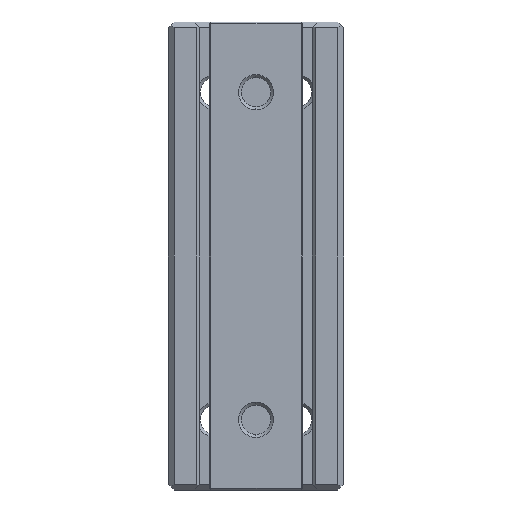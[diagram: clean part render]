
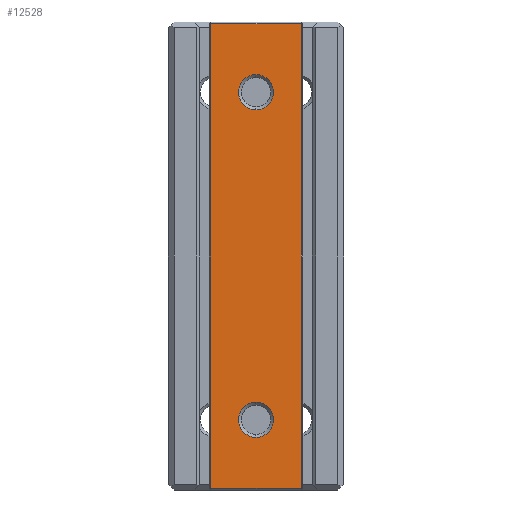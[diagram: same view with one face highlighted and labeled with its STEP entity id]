
A CAD part, front view. The second image highlights one B-rep face of the part: STEP entity #12528.
In plain terms, the highlighted planar face has unit normal (0, -1, 0).
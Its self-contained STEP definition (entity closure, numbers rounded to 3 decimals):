
#467 = EDGE_CURVE ( 'NONE', #4938, #4957, #1821, .T. ) ;
#476 = EDGE_CURVE ( 'NONE', #4956, #4934, #1838, .T. ) ;
#477 = EDGE_CURVE ( 'NONE', #4959, #4961, #11654, .T. ) ;
#479 = EDGE_CURVE ( 'NONE', #4961, #4980, #11653, .T. ) ;
#481 = EDGE_CURVE ( 'NONE', #4977, #4980, #11652, .T. ) ;
#482 = EDGE_CURVE ( 'NONE', #4977, #4959, #11666, .T. ) ;
#483 = EDGE_CURVE ( 'NONE', #4957, #4938, #1847, .T. ) ;
#776 = EDGE_LOOP ( 'NONE', ( #11438, #11437 ) ) ;
#1821 = CIRCLE ( 'NONE', #1831, 1.5 ) ;
#1831 = AXIS2_PLACEMENT_3D ( 'NONE', #11628, #11629, #11630 ) ;
#1838 = CIRCLE ( 'NONE', #1842, 1.5 ) ;
#1840 = VECTOR ( 'NONE', #11659, 1000. ) ;
#1842 = AXIS2_PLACEMENT_3D ( 'NONE', #11655, #11656, #11657 ) ;
#1843 = VECTOR ( 'NONE', #11665, 1000. ) ;
#1844 = VECTOR ( 'NONE', #11667, 1000. ) ;
#1845 = VECTOR ( 'NONE', #11662, 1000. ) ;
#1847 = CIRCLE ( 'NONE', #1848, 1.5 ) ;
#1848 = AXIS2_PLACEMENT_3D ( 'NONE', #11670, #11671, #11672 ) ;
#3731 = CARTESIAN_POINT ( 'NONE',  ( 0., -0.5, -15.5 ) ) ;
#3735 = CARTESIAN_POINT ( 'NONE',  ( 0., -0.5, 12.5 ) ) ;
#3753 = CARTESIAN_POINT ( 'NONE',  ( 0., -0.5, -12.5 ) ) ;
#3754 = CARTESIAN_POINT ( 'NONE',  ( 0., -0.5, 15.5 ) ) ;
#3756 = CARTESIAN_POINT ( 'NONE',  ( -3.85, -0.5, 19.85 ) ) ;
#3758 = CARTESIAN_POINT ( 'NONE',  ( -3.85, -0.5, -19.85 ) ) ;
#3774 = CARTESIAN_POINT ( 'NONE',  ( 3.85, -0.5, 19.85 ) ) ;
#3777 = CARTESIAN_POINT ( 'NONE',  ( 3.85, -0.5, -19.85 ) ) ;
#4934 = VERTEX_POINT ( 'NONE', #3731 ) ;
#4938 = VERTEX_POINT ( 'NONE', #3735 ) ;
#4956 = VERTEX_POINT ( 'NONE', #3753 ) ;
#4957 = VERTEX_POINT ( 'NONE', #3754 ) ;
#4959 = VERTEX_POINT ( 'NONE', #3756 ) ;
#4961 = VERTEX_POINT ( 'NONE', #3758 ) ;
#4977 = VERTEX_POINT ( 'NONE', #3774 ) ;
#4980 = VERTEX_POINT ( 'NONE', #3777 ) ;
#5706 = EDGE_CURVE ( 'NONE', #4934, #4956, #7361, .T. ) ;
#7361 = CIRCLE ( 'NONE', #7364, 1.5 ) ;
#7364 = AXIS2_PLACEMENT_3D ( 'NONE', #8394, #8395, #8396 ) ;
#8394 = CARTESIAN_POINT ( 'NONE',  ( 0., -0.5, -14. ) ) ;
#8395 = DIRECTION ( 'NONE',  ( 0., 1., 0. ) ) ;
#8396 = DIRECTION ( 'NONE',  ( 0., 0., 1. ) ) ;
#9909 = FACE_BOUND ( 'NONE', #12332, .T. ) ;
#10216 = AXIS2_PLACEMENT_3D ( 'NONE', #11802, #11804, #11806 ) ;
#11353 = PLANE ( 'NONE',  #10216 ) ;
#11437 = ORIENTED_EDGE ( 'NONE', *, *, #483, .T. ) ;
#11438 = ORIENTED_EDGE ( 'NONE', *, *, #467, .T. ) ;
#11467 = ORIENTED_EDGE ( 'NONE', *, *, #5706, .T. ) ;
#11485 = ORIENTED_EDGE ( 'NONE', *, *, #477, .T. ) ;
#11490 = ORIENTED_EDGE ( 'NONE', *, *, #476, .T. ) ;
#11529 = ORIENTED_EDGE ( 'NONE', *, *, #481, .F. ) ;
#11553 = ORIENTED_EDGE ( 'NONE', *, *, #482, .T. ) ;
#11573 = ORIENTED_EDGE ( 'NONE', *, *, #479, .T. ) ;
#11628 = CARTESIAN_POINT ( 'NONE',  ( 0., -0.5, 14. ) ) ;
#11629 = DIRECTION ( 'NONE',  ( 0., 1., 0. ) ) ;
#11630 = DIRECTION ( 'NONE',  ( 0., 0., 1. ) ) ;
#11649 = CARTESIAN_POINT ( 'NONE',  ( -3.85, -0.5, 29.179 ) ) ;
#11652 = LINE ( 'NONE', #11664, #1843 ) ;
#11653 = LINE ( 'NONE', #11661, #1845 ) ;
#11654 = LINE ( 'NONE', #11649, #1840 ) ;
#11655 = CARTESIAN_POINT ( 'NONE',  ( 0., -0.5, -14. ) ) ;
#11656 = DIRECTION ( 'NONE',  ( 0., 1., 0. ) ) ;
#11657 = DIRECTION ( 'NONE',  ( 0., 0., 1. ) ) ;
#11659 = DIRECTION ( 'NONE',  ( 0., 0., -1. ) ) ;
#11661 = CARTESIAN_POINT ( 'NONE',  ( 3.85, -0.5, -19.85 ) ) ;
#11662 = DIRECTION ( 'NONE',  ( 1., 0., 0. ) ) ;
#11663 = CARTESIAN_POINT ( 'NONE',  ( -3.85, -0.5, 19.85 ) ) ;
#11664 = CARTESIAN_POINT ( 'NONE',  ( 3.85, -0.5, 29.179 ) ) ;
#11665 = DIRECTION ( 'NONE',  ( 0., 0., -1. ) ) ;
#11666 = LINE ( 'NONE', #11663, #1844 ) ;
#11667 = DIRECTION ( 'NONE',  ( -1., 0., 0. ) ) ;
#11670 = CARTESIAN_POINT ( 'NONE',  ( 0., -0.5, 14. ) ) ;
#11671 = DIRECTION ( 'NONE',  ( 0., 1., 0. ) ) ;
#11672 = DIRECTION ( 'NONE',  ( 0., 0., 1. ) ) ;
#11796 = FACE_OUTER_BOUND ( 'NONE', #12276, .T. ) ;
#11799 = FACE_BOUND ( 'NONE', #776, .T. ) ;
#11802 = CARTESIAN_POINT ( 'NONE',  ( -3.85, -0.5, 29.179 ) ) ;
#11804 = DIRECTION ( 'NONE',  ( 0., 1., 0. ) ) ;
#11806 = DIRECTION ( 'NONE',  ( 0., 0., 1. ) ) ;
#12276 = EDGE_LOOP ( 'NONE', ( #11485, #11573, #11529, #11553 ) ) ;
#12332 = EDGE_LOOP ( 'NONE', ( #11467, #11490 ) ) ;
#12528 = ADVANCED_FACE ( 'NONE', ( #9909, #11796, #11799 ), #11353, .F. ) ;
